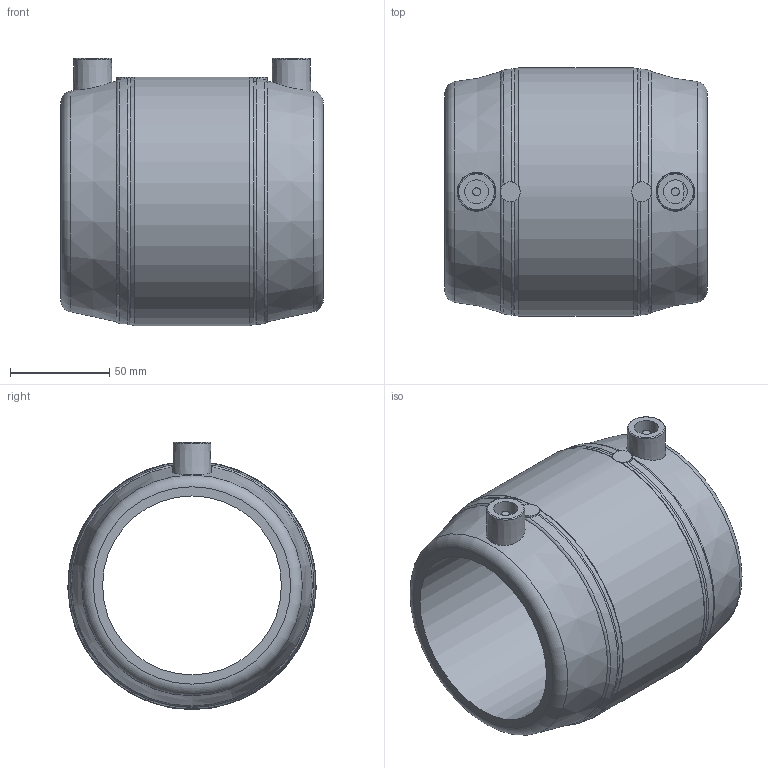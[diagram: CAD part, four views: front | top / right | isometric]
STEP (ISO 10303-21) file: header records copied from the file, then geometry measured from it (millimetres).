
FILE_DESCRIPTION(/* description */ ('Unknown'),/* implementation_level */ '2;1');
FILE_NAME(/* name */ 'MP090H',/* time_stamp */ '2021-05-26T17:32:08+02:00',/* author */ ('Unknown'),/* organization */ ('Unknown'),/* preprocessor_version */ 'ST-DEVELOPER v16.7',/* originating_system */ 'Solid Edge',/* authorisation */ 'Unknown');
FILE_SCHEMA (('AUTOMOTIVE_DESIGN {1 0 10303 214 3 1 1}'));
Length unit declared in the file: millimetre
Products named in the file (1): MP090H
Bounding box: 132 x 124.97 x 134.5 mm (x, y, z)
Volume: 673004.3 mm3; surface area: 96086.9 mm2
Topology: 1 solids, 1 shells, 37 faces, 84 edges, 53 vertices
Faces by surface type: plane 10, torus 10, cone 9, cylinder 8
Full cylindrical faces by diameter (mm): 4 x2, 10 x2, 12 x2, 90 x1, 125 x1
Entity records: 996 total; most frequent: CARTESIAN_POINT 278, DIRECTION 138, ORIENTED_EDGE 120, AXIS2_PLACEMENT_3D 69, EDGE_CURVE 60, EDGE_LOOP 59, FACE_BOUND 59, VERTEX_POINT 45
